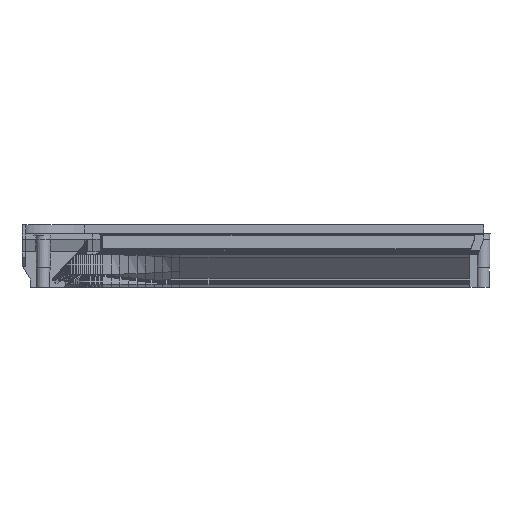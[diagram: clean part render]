
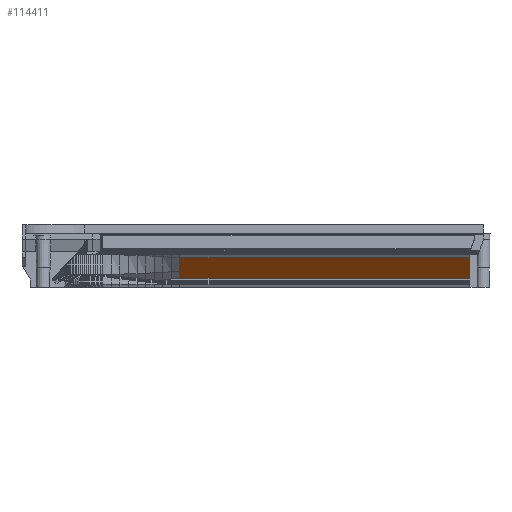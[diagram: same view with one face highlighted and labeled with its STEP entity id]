
A CAD part, front view. The second image highlights one B-rep face of the part: STEP entity #114411.
In plain terms, the highlighted planar face has unit normal (0, -0.707, -0.707).
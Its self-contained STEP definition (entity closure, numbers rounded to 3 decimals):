
#31667 = PLANE('',#31668);
#31668 = AXIS2_PLACEMENT_3D('',#31669,#31670,#31671);
#31669 = CARTESIAN_POINT('',(-0.1,148.4,8.9));
#31670 = DIRECTION('',(1.,0.,0.));
#31671 = DIRECTION('',(-0.,1.,0.));
#32263 = VERTEX_POINT('',#32264);
#32264 = CARTESIAN_POINT('',(-0.1,156.995,13.005));
#32278 = PLANE('',#32279);
#32279 = AXIS2_PLACEMENT_3D('',#32280,#32281,#32282);
#32280 = CARTESIAN_POINT('',(-126.7,156.995,13.005));
#32281 = DIRECTION('',(-0.,-0.777,-0.63));
#32282 = DIRECTION('',(0.,-0.63,0.777));
#32289 = EDGE_CURVE('',#32263,#32290,#32292,.T.);
#32290 = VERTEX_POINT('',#32291);
#32291 = CARTESIAN_POINT('',(-0.1,166.,4.));
#32292 = SURFACE_CURVE('',#32293,(#32297,#32304),.PCURVE_S1.);
#32293 = LINE('',#32294,#32295);
#32294 = CARTESIAN_POINT('',(-0.1,156.995,13.005));
#32295 = VECTOR('',#32296,1.);
#32296 = DIRECTION('',(0.,0.707,-0.707));
#32297 = PCURVE('',#31667,#32298);
#32298 = DEFINITIONAL_REPRESENTATION('',(#32299),#32303);
#32299 = LINE('',#32300,#32301);
#32300 = CARTESIAN_POINT('',(8.595,4.105));
#32301 = VECTOR('',#32302,1.);
#32302 = DIRECTION('',(0.707,-0.707));
#32303 = ( GEOMETRIC_REPRESENTATION_CONTEXT(2) 
PARAMETRIC_REPRESENTATION_CONTEXT() REPRESENTATION_CONTEXT('2D SPACE',''
  ) );
#32304 = PCURVE('',#32305,#32310);
#32305 = PLANE('',#32306);
#32306 = AXIS2_PLACEMENT_3D('',#32307,#32308,#32309);
#32307 = CARTESIAN_POINT('',(-126.7,166.,4.));
#32308 = DIRECTION('',(-0.,-0.707,-0.707));
#32309 = DIRECTION('',(0.,-0.707,0.707));
#32310 = DEFINITIONAL_REPRESENTATION('',(#32311),#32315);
#32311 = LINE('',#32312,#32313);
#32312 = CARTESIAN_POINT('',(12.735,-126.6));
#32313 = VECTOR('',#32314,1.);
#32314 = DIRECTION('',(-1.,0.));
#32315 = ( GEOMETRIC_REPRESENTATION_CONTEXT(2) 
PARAMETRIC_REPRESENTATION_CONTEXT() REPRESENTATION_CONTEXT('2D SPACE',''
  ) );
#32333 = PLANE('',#32334);
#32334 = AXIS2_PLACEMENT_3D('',#32335,#32336,#32337);
#32335 = CARTESIAN_POINT('',(168.,166.,2.8));
#32336 = DIRECTION('',(0.,-1.,0.));
#32337 = DIRECTION('',(-1.,0.,0.));
#98739 = B_SPLINE_SURFACE_WITH_KNOTS('',1,1,(
    (#98740,#98741)
    ,(#98742,#98743
    )),.UNSPECIFIED.,.F.,.F.,.F.,(2,2),(2,2),(0.,4.464),(0.,1.)
  ,.PIECEWISE_BEZIER_KNOTS.);
#98740 = CARTESIAN_POINT('',(-126.4,166.,4.));
#98741 = CARTESIAN_POINT('',(-130.133,166.,3.685));
#98742 = CARTESIAN_POINT('',(-126.4,163.005,6.995));
#98743 = CARTESIAN_POINT('',(-130.133,162.844,
    6.842));
#98815 = B_SPLINE_SURFACE_WITH_KNOTS('',1,1,(
    (#98816,#98817)
    ,(#98818,#98819
    )),.UNSPECIFIED.,.F.,.F.,.F.,(2,2),(2,2),(0.,8.5),(0.,1.),
  .PIECEWISE_BEZIER_KNOTS.);
#98816 = CARTESIAN_POINT('',(-126.4,163.005,6.995));
#98817 = CARTESIAN_POINT('',(-130.133,162.844,
    6.842));
#98818 = CARTESIAN_POINT('',(-126.4,156.995,13.005));
#98819 = CARTESIAN_POINT('',(-130.133,157.156,
    13.158));
#98969 = VERTEX_POINT('',#98970);
#98970 = CARTESIAN_POINT('',(-126.4,156.995,13.005));
#110832 = EDGE_CURVE('',#110833,#98969,#110835,.T.);
#110833 = VERTEX_POINT('',#110834);
#110834 = CARTESIAN_POINT('',(-126.4,163.005,6.995));
#110835 = SURFACE_CURVE('',#110836,(#110840,#110847),.PCURVE_S1.);
#110836 = LINE('',#110837,#110838);
#110837 = CARTESIAN_POINT('',(-126.4,163.005,6.995));
#110838 = VECTOR('',#110839,1.);
#110839 = DIRECTION('',(0.,-0.707,0.707));
#110840 = PCURVE('',#98815,#110841);
#110841 = DEFINITIONAL_REPRESENTATION('',(#110842),#110846);
#110842 = LINE('',#110843,#110844);
#110843 = CARTESIAN_POINT('',(0.,0.));
#110844 = VECTOR('',#110845,1.);
#110845 = DIRECTION('',(1.,0.));
#110846 = ( GEOMETRIC_REPRESENTATION_CONTEXT(2) 
PARAMETRIC_REPRESENTATION_CONTEXT() REPRESENTATION_CONTEXT('2D SPACE',''
  ) );
#110847 = PCURVE('',#32305,#110848);
#110848 = DEFINITIONAL_REPRESENTATION('',(#110849),#110853);
#110849 = LINE('',#110850,#110851);
#110850 = CARTESIAN_POINT('',(4.235,-0.3));
#110851 = VECTOR('',#110852,1.);
#110852 = DIRECTION('',(1.,0.));
#110853 = ( GEOMETRIC_REPRESENTATION_CONTEXT(2) 
PARAMETRIC_REPRESENTATION_CONTEXT() REPRESENTATION_CONTEXT('2D SPACE',''
  ) );
#110881 = EDGE_CURVE('',#110882,#110833,#110884,.T.);
#110882 = VERTEX_POINT('',#110883);
#110883 = CARTESIAN_POINT('',(-126.4,166.,4.));
#110884 = SURFACE_CURVE('',#110885,(#110889,#110895),.PCURVE_S1.);
#110885 = LINE('',#110886,#110887);
#110886 = CARTESIAN_POINT('',(-126.4,166.,4.));
#110887 = VECTOR('',#110888,1.);
#110888 = DIRECTION('',(0.,-0.707,0.707));
#110889 = PCURVE('',#98739,#110890);
#110890 = DEFINITIONAL_REPRESENTATION('',(#110891),#110894);
#110891 = B_SPLINE_CURVE_WITH_KNOTS('',1,(#110892,#110893),
  .UNSPECIFIED.,.F.,.F.,(2,2),(0.,4.235),
  .PIECEWISE_BEZIER_KNOTS.);
#110892 = CARTESIAN_POINT('',(0.,0.));
#110893 = CARTESIAN_POINT('',(4.464,0.));
#110894 = ( GEOMETRIC_REPRESENTATION_CONTEXT(2) 
PARAMETRIC_REPRESENTATION_CONTEXT() REPRESENTATION_CONTEXT('2D SPACE',''
  ) );
#110895 = PCURVE('',#32305,#110896);
#110896 = DEFINITIONAL_REPRESENTATION('',(#110897),#110901);
#110897 = LINE('',#110898,#110899);
#110898 = CARTESIAN_POINT('',(0.,-0.3));
#110899 = VECTOR('',#110900,1.);
#110900 = DIRECTION('',(1.,0.));
#110901 = ( GEOMETRIC_REPRESENTATION_CONTEXT(2) 
PARAMETRIC_REPRESENTATION_CONTEXT() REPRESENTATION_CONTEXT('2D SPACE',''
  ) );
#114385 = EDGE_CURVE('',#32290,#110882,#114386,.T.);
#114386 = SURFACE_CURVE('',#114387,(#114390,#114396),.PCURVE_S1.);
#114387 = B_SPLINE_CURVE_WITH_KNOTS('',1,(#114388,#114389),
  .UNSPECIFIED.,.F.,.F.,(2,2),(0.,1.),.PIECEWISE_BEZIER_KNOTS.);
#114388 = CARTESIAN_POINT('',(126.7,166.,4.));
#114389 = CARTESIAN_POINT('',(-126.7,166.,4.));
#114390 = PCURVE('',#32333,#114391);
#114391 = DEFINITIONAL_REPRESENTATION('',(#114392),#114395);
#114392 = B_SPLINE_CURVE_WITH_KNOTS('',1,(#114393,#114394),
  .UNSPECIFIED.,.F.,.F.,(2,2),(0.,1.),.PIECEWISE_BEZIER_KNOTS.);
#114393 = CARTESIAN_POINT('',(41.3,-1.2));
#114394 = CARTESIAN_POINT('',(294.7,-1.2));
#114395 = ( GEOMETRIC_REPRESENTATION_CONTEXT(2) 
PARAMETRIC_REPRESENTATION_CONTEXT() REPRESENTATION_CONTEXT('2D SPACE',''
  ) );
#114396 = PCURVE('',#32305,#114397);
#114397 = DEFINITIONAL_REPRESENTATION('',(#114398),#114401);
#114398 = B_SPLINE_CURVE_WITH_KNOTS('',1,(#114399,#114400),
  .UNSPECIFIED.,.F.,.F.,(2,2),(0.,1.),.PIECEWISE_BEZIER_KNOTS.);
#114399 = CARTESIAN_POINT('',(0.,-253.4));
#114400 = CARTESIAN_POINT('',(0.,0.));
#114401 = ( GEOMETRIC_REPRESENTATION_CONTEXT(2) 
PARAMETRIC_REPRESENTATION_CONTEXT() REPRESENTATION_CONTEXT('2D SPACE',''
  ) );
#114411 = ADVANCED_FACE('',(#114412),#32305,.T.);
#114412 = FACE_BOUND('',#114413,.T.);
#114413 = EDGE_LOOP('',(#114414,#114415,#114416,#114434,#114435));
#114414 = ORIENTED_EDGE('',*,*,#114385,.F.);
#114415 = ORIENTED_EDGE('',*,*,#32289,.F.);
#114416 = ORIENTED_EDGE('',*,*,#114417,.T.);
#114417 = EDGE_CURVE('',#32263,#98969,#114418,.T.);
#114418 = SURFACE_CURVE('',#114419,(#114422,#114428),.PCURVE_S1.);
#114419 = B_SPLINE_CURVE_WITH_KNOTS('',1,(#114420,#114421),
  .UNSPECIFIED.,.F.,.F.,(2,2),(0.,1.),.PIECEWISE_BEZIER_KNOTS.);
#114420 = CARTESIAN_POINT('',(126.7,156.995,13.005));
#114421 = CARTESIAN_POINT('',(-126.7,156.995,13.005));
#114422 = PCURVE('',#32305,#114423);
#114423 = DEFINITIONAL_REPRESENTATION('',(#114424),#114427);
#114424 = B_SPLINE_CURVE_WITH_KNOTS('',1,(#114425,#114426),
  .UNSPECIFIED.,.F.,.F.,(2,2),(0.,1.),.PIECEWISE_BEZIER_KNOTS.);
#114425 = CARTESIAN_POINT('',(12.735,-253.4));
#114426 = CARTESIAN_POINT('',(12.735,0.));
#114427 = ( GEOMETRIC_REPRESENTATION_CONTEXT(2) 
PARAMETRIC_REPRESENTATION_CONTEXT() REPRESENTATION_CONTEXT('2D SPACE',''
  ) );
#114428 = PCURVE('',#32278,#114429);
#114429 = DEFINITIONAL_REPRESENTATION('',(#114430),#114433);
#114430 = B_SPLINE_CURVE_WITH_KNOTS('',1,(#114431,#114432),
  .UNSPECIFIED.,.F.,.F.,(2,2),(0.,1.),.PIECEWISE_BEZIER_KNOTS.);
#114431 = CARTESIAN_POINT('',(0.,-253.4));
#114432 = CARTESIAN_POINT('',(0.,0.));
#114433 = ( GEOMETRIC_REPRESENTATION_CONTEXT(2) 
PARAMETRIC_REPRESENTATION_CONTEXT() REPRESENTATION_CONTEXT('2D SPACE',''
  ) );
#114434 = ORIENTED_EDGE('',*,*,#110832,.F.);
#114435 = ORIENTED_EDGE('',*,*,#110881,.F.);
